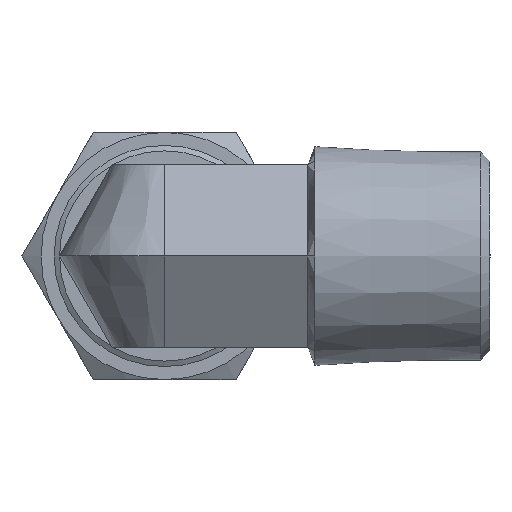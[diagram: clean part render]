
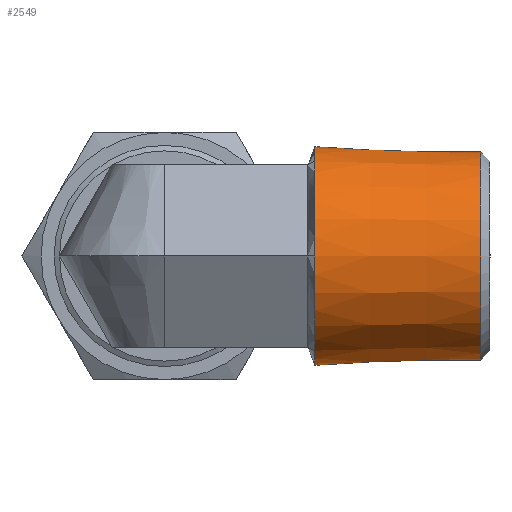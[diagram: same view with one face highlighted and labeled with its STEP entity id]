
A CAD part, left-side view. The second image highlights one B-rep face of the part: STEP entity #2549.
In plain terms, the highlighted conical face has half-angle 1.79 degrees and reference radius 8.201 mm.
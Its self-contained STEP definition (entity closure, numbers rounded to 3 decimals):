
#1676=CARTESIAN_POINT('',(-4.2,13.451,-7.275));
#1677=VERTEX_POINT('',#1676);
#1678=CARTESIAN_POINT('',(-8.4,13.451,0.0));
#1679=VERTEX_POINT('',#1678);
#1680=CARTESIAN_POINT('',(0.,13.451,0.0));
#1681=DIRECTION('',(0.,1.0,0.0));
#1682=DIRECTION('',(-1.0,0.,0.0));
#1683=AXIS2_PLACEMENT_3D('',#1680,#1681,#1682);
#1684=CIRCLE('',#1683,8.4);
#1685=EDGE_CURVE('',#1677,#1679,#1684,.T.);
#1743=CARTESIAN_POINT('',(-4.2,13.451,7.275));
#1744=VERTEX_POINT('',#1743);
#1745=CARTESIAN_POINT('',(0.,13.451,0.0));
#1746=DIRECTION('',(0.,1.0,0.0));
#1747=DIRECTION('',(-1.0,0.,0.0));
#1748=AXIS2_PLACEMENT_3D('',#1745,#1746,#1747);
#1749=CIRCLE('',#1748,8.4);
#1750=EDGE_CURVE('',#1679,#1744,#1749,.T.);
#1800=CARTESIAN_POINT('',(4.2,13.451,7.275));
#1801=VERTEX_POINT('',#1800);
#1802=CARTESIAN_POINT('',(0.,13.451,0.0));
#1803=DIRECTION('',(0.,1.0,0.0));
#1804=DIRECTION('',(-1.0,0.,0.0));
#1805=AXIS2_PLACEMENT_3D('',#1802,#1803,#1804);
#1806=CIRCLE('',#1805,8.4);
#1807=EDGE_CURVE('',#1744,#1801,#1806,.T.);
#1857=CARTESIAN_POINT('',(8.4,13.451,0.));
#1858=VERTEX_POINT('',#1857);
#1859=CARTESIAN_POINT('',(0.,13.451,0.0));
#1860=DIRECTION('',(0.,1.0,0.0));
#1861=DIRECTION('',(-1.0,0.,0.0));
#1862=AXIS2_PLACEMENT_3D('',#1859,#1860,#1861);
#1863=CIRCLE('',#1862,8.4);
#1864=EDGE_CURVE('',#1801,#1858,#1863,.T.);
#1914=CARTESIAN_POINT('',(4.2,13.451,-7.275));
#1915=VERTEX_POINT('',#1914);
#1916=CARTESIAN_POINT('',(0.,13.451,0.0));
#1917=DIRECTION('',(0.,1.0,0.0));
#1918=DIRECTION('',(-1.0,0.,0.0));
#1919=AXIS2_PLACEMENT_3D('',#1916,#1917,#1918);
#1920=CIRCLE('',#1919,8.4);
#1921=EDGE_CURVE('',#1858,#1915,#1920,.T.);
#1971=CARTESIAN_POINT('',(0.,13.451,0.0));
#1972=DIRECTION('',(0.,1.0,0.0));
#1973=DIRECTION('',(-1.0,0.,0.0));
#1974=AXIS2_PLACEMENT_3D('',#1971,#1972,#1973);
#1975=CIRCLE('',#1974,8.4);
#1976=EDGE_CURVE('',#1915,#1677,#1975,.T.);
#2518=CARTESIAN_POINT('',(-8.002,0.7,0.0));
#2519=VERTEX_POINT('',#2518);
#2520=CARTESIAN_POINT('',(0.,0.7,0.0));
#2521=DIRECTION('',(0.,1.0,0.0));
#2522=DIRECTION('',(-1.0,0.,0.0));
#2523=AXIS2_PLACEMENT_3D('',#2520,#2521,#2522);
#2524=CIRCLE('',#2523,8.002);
#2525=EDGE_CURVE('',#2519,#2519,#2524,.T.);
#2533=CARTESIAN_POINT('',(0.,7.075,0.0));
#2534=DIRECTION('',(0.,1.0,0.0));
#2535=DIRECTION('',(-1.0,0.,0.0));
#2536=AXIS2_PLACEMENT_3D('',#2533,#2534,#2535);
#2537=CONICAL_SURFACE('',#2536,8.201,1.79);
#2538=ORIENTED_EDGE('',*,*,#1750,.F.);
#2539=ORIENTED_EDGE('',*,*,#1685,.F.);
#2540=ORIENTED_EDGE('',*,*,#1976,.F.);
#2541=ORIENTED_EDGE('',*,*,#1921,.F.);
#2542=ORIENTED_EDGE('',*,*,#1864,.F.);
#2543=ORIENTED_EDGE('',*,*,#1807,.F.);
#2544=EDGE_LOOP('',(#2538,#2539,#2540,#2541,#2542,#2543));
#2545=FACE_OUTER_BOUND('',#2544,.T.);
#2546=ORIENTED_EDGE('',*,*,#2525,.T.);
#2547=EDGE_LOOP('',(#2546));
#2548=FACE_BOUND('',#2547,.T.);
#2549=ADVANCED_FACE('',(#2545,#2548),#2537,.T.);
